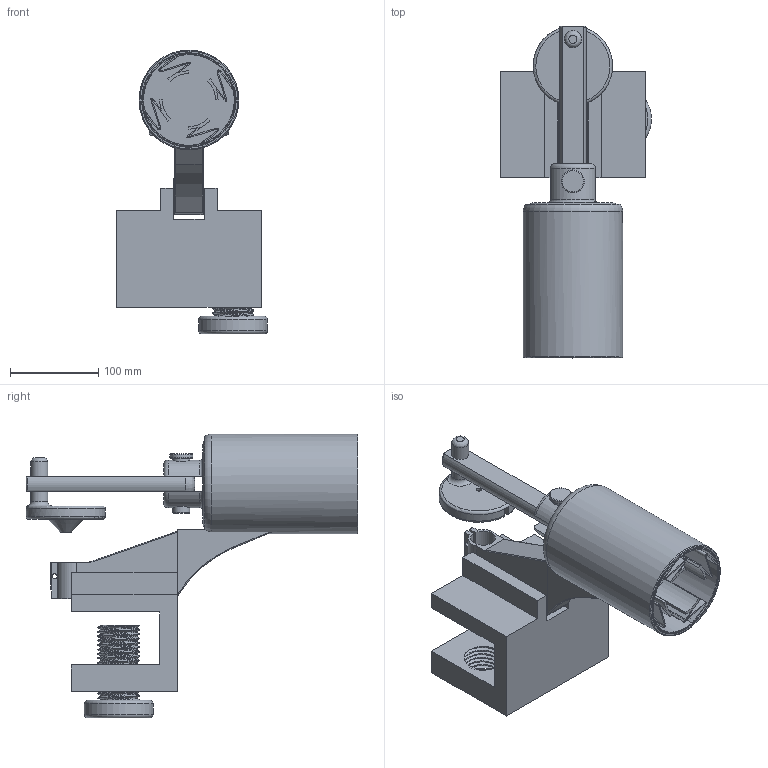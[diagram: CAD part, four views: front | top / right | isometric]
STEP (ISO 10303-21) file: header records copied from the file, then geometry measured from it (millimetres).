
FILE_DESCRIPTION(/* description */ (''),/* implementation_level */ '2;1');
FILE_NAME(/* name */ 'Thruster_v15.step',/* time_stamp */ '2026-06-23T02:58:29+05:30',/* author */ (''),/* organization */ (''),/* preprocessor_version */ 'ST-DEVELOPER v20.1',/* originating_system */ 'Autodesk Translation Framework v15.8.0.0',/* authorisation */ '');
FILE_SCHEMA (('AUTOMOTIVE_DESIGN { 1 0 10303 214 3 1 1 }'));
Length unit declared in the file: millimetre
Products named in the file (1): Thruster
Bounding box: 171.02 x 376 x 321.5 mm (x, y, z)
Volume: 2317716 mm3; surface area: 577577.3 mm2
Topology: 9 solids, 11 shells, 295 faces, 786 edges, 519 vertices
Faces by surface type: cylinder 120, plane 111, bspline 43, torus 20, cone 1
Full cylindrical faces by diameter (mm): 5.6 x2, 5.8 x1, 19.2 x1, 19.4 x1, 19.602 x1, 20 x3, 26 x1, 41.934 x16, 42.942 x10, 47.064 x16, 48.529 x10, 78.048 x1, 103 x1, 107 x1, 107.2 x1, 113 x1
Entity records: 18908 total; most frequent: CARTESIAN_POINT 11969, ORIENTED_EDGE 1572, DIRECTION 1220, EDGE_CURVE 786, VERTEX_POINT 519, AXIS2_PLACEMENT_3D 426, LINE 368, VECTOR 368
